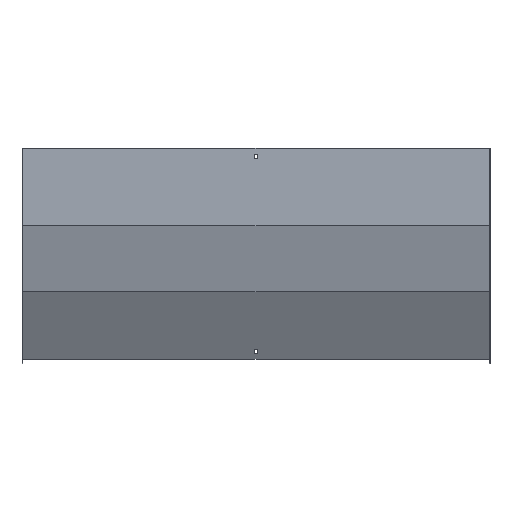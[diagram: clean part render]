
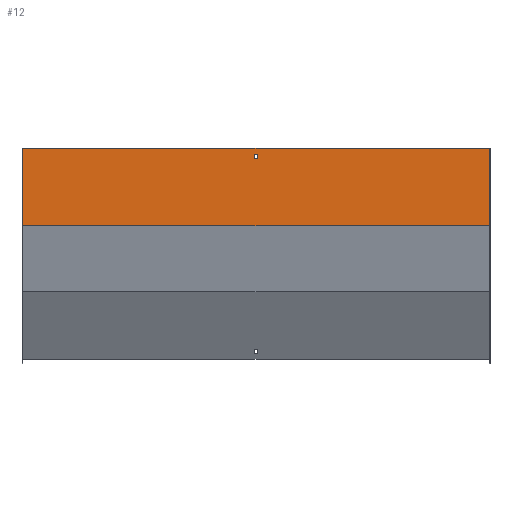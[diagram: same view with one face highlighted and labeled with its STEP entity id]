
A CAD part, front view. The second image highlights one B-rep face of the part: STEP entity #12.
In plain terms, the highlighted planar face has unit normal (0, -1, 0).
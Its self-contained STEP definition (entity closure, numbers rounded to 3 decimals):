
#6 = DIRECTION ( 'NONE',  ( 1., 0., 0. ) ) ;
#10 = VERTEX_POINT ( 'NONE', #717 ) ;
#12 = ADVANCED_FACE ( 'NONE', ( #710, #577 ), #642, .F. ) ;
#22 = EDGE_LOOP ( 'NONE', ( #269, #307, #794, #544 ) ) ;
#24 = CARTESIAN_POINT ( 'NONE',  ( -3.25, -1.5, -21. ) ) ;
#40 = DIRECTION ( 'NONE',  ( 0., 0., -1. ) ) ;
#44 = EDGE_LOOP ( 'NONE', ( #291, #702, #366, #787 ) ) ;
#45 = LINE ( 'NONE', #419, #295 ) ;
#47 = VERTEX_POINT ( 'NONE', #282 ) ;
#60 = VERTEX_POINT ( 'NONE', #657 ) ;
#62 = CARTESIAN_POINT ( 'NONE',  ( 450., -1.5, 0. ) ) ;
#79 = VERTEX_POINT ( 'NONE', #598 ) ;
#104 = CARTESIAN_POINT ( 'NONE',  ( 3.25, -1.5, 0. ) ) ;
#140 = CARTESIAN_POINT ( 'NONE',  ( 450., -1.5, -150.097 ) ) ;
#144 = VECTOR ( 'NONE', #546, 1000. ) ;
#186 = EDGE_CURVE ( 'NONE', #538, #60, #559, .T. ) ;
#192 = DIRECTION ( 'NONE',  ( 0., 1., 0. ) ) ;
#208 = CARTESIAN_POINT ( 'NONE',  ( 451.5, -1.5, -21. ) ) ;
#236 = DIRECTION ( 'NONE',  ( -1., 0., 0. ) ) ;
#241 = EDGE_CURVE ( 'NONE', #10, #79, #550, .T. ) ;
#245 = AXIS2_PLACEMENT_3D ( 'NONE', #449, #192, #394 ) ;
#253 = VERTEX_POINT ( 'NONE', #24 ) ;
#256 = DIRECTION ( 'NONE',  ( -1., 0., 0. ) ) ;
#269 = ORIENTED_EDGE ( 'NONE', *, *, #186, .T. ) ;
#282 = CARTESIAN_POINT ( 'NONE',  ( -3.25, -1.5, -12. ) ) ;
#291 = ORIENTED_EDGE ( 'NONE', *, *, #241, .F. ) ;
#294 = VERTEX_POINT ( 'NONE', #140 ) ;
#295 = VECTOR ( 'NONE', #315, 1000. ) ;
#303 = LINE ( 'NONE', #363, #586 ) ;
#305 = EDGE_CURVE ( 'NONE', #253, #10, #739, .T. ) ;
#307 = ORIENTED_EDGE ( 'NONE', *, *, #774, .F. ) ;
#309 = LINE ( 'NONE', #678, #789 ) ;
#315 = DIRECTION ( 'NONE',  ( -1., 0., 0. ) ) ;
#328 = CARTESIAN_POINT ( 'NONE',  ( -450., -1.5, 0. ) ) ;
#335 = DIRECTION ( 'NONE',  ( 0., 0., -1. ) ) ;
#363 = CARTESIAN_POINT ( 'NONE',  ( 450., -1.5, 0. ) ) ;
#366 = ORIENTED_EDGE ( 'NONE', *, *, #476, .F. ) ;
#390 = LINE ( 'NONE', #636, #675 ) ;
#393 = VECTOR ( 'NONE', #6, 1000. ) ;
#394 = DIRECTION ( 'NONE',  ( 0., 0., 1. ) ) ;
#419 = CARTESIAN_POINT ( 'NONE',  ( 451.5, -1.5, -12. ) ) ;
#442 = VECTOR ( 'NONE', #256, 1000. ) ;
#449 = CARTESIAN_POINT ( 'NONE',  ( 451.5, -1.5, 0. ) ) ;
#476 = EDGE_CURVE ( 'NONE', #47, #253, #390, .T. ) ;
#525 = VERTEX_POINT ( 'NONE', #62 ) ;
#538 = VERTEX_POINT ( 'NONE', #328 ) ;
#544 = ORIENTED_EDGE ( 'NONE', *, *, #721, .T. ) ;
#546 = DIRECTION ( 'NONE',  ( 0., 0., 1. ) ) ;
#550 = LINE ( 'NONE', #104, #144 ) ;
#559 = LINE ( 'NONE', #752, #771 ) ;
#577 = FACE_BOUND ( 'NONE', #44, .T. ) ;
#586 = VECTOR ( 'NONE', #40, 1000. ) ;
#598 = CARTESIAN_POINT ( 'NONE',  ( 3.25, -1.5, -12. ) ) ;
#636 = CARTESIAN_POINT ( 'NONE',  ( -3.25, -1.5, 0. ) ) ;
#642 = PLANE ( 'NONE',  #245 ) ;
#645 = LINE ( 'NONE', #850, #442 ) ;
#657 = CARTESIAN_POINT ( 'NONE',  ( -450., -1.5, -150.097 ) ) ;
#658 = EDGE_CURVE ( 'NONE', #525, #294, #303, .T. ) ;
#675 = VECTOR ( 'NONE', #335, 1000. ) ;
#678 = CARTESIAN_POINT ( 'NONE',  ( 451.5, -1.5, 0. ) ) ;
#689 = DIRECTION ( 'NONE',  ( 0., 0., -1. ) ) ;
#700 = EDGE_CURVE ( 'NONE', #79, #47, #45, .T. ) ;
#702 = ORIENTED_EDGE ( 'NONE', *, *, #305, .F. ) ;
#710 = FACE_OUTER_BOUND ( 'NONE', #22, .T. ) ;
#717 = CARTESIAN_POINT ( 'NONE',  ( 3.25, -1.5, -21. ) ) ;
#721 = EDGE_CURVE ( 'NONE', #525, #538, #309, .T. ) ;
#739 = LINE ( 'NONE', #208, #393 ) ;
#752 = CARTESIAN_POINT ( 'NONE',  ( -450., -1.5, 0. ) ) ;
#771 = VECTOR ( 'NONE', #689, 1000. ) ;
#774 = EDGE_CURVE ( 'NONE', #294, #60, #645, .T. ) ;
#787 = ORIENTED_EDGE ( 'NONE', *, *, #700, .F. ) ;
#789 = VECTOR ( 'NONE', #236, 1000. ) ;
#794 = ORIENTED_EDGE ( 'NONE', *, *, #658, .F. ) ;
#850 = CARTESIAN_POINT ( 'NONE',  ( 451.5, -1.5, -150.097 ) ) ;
